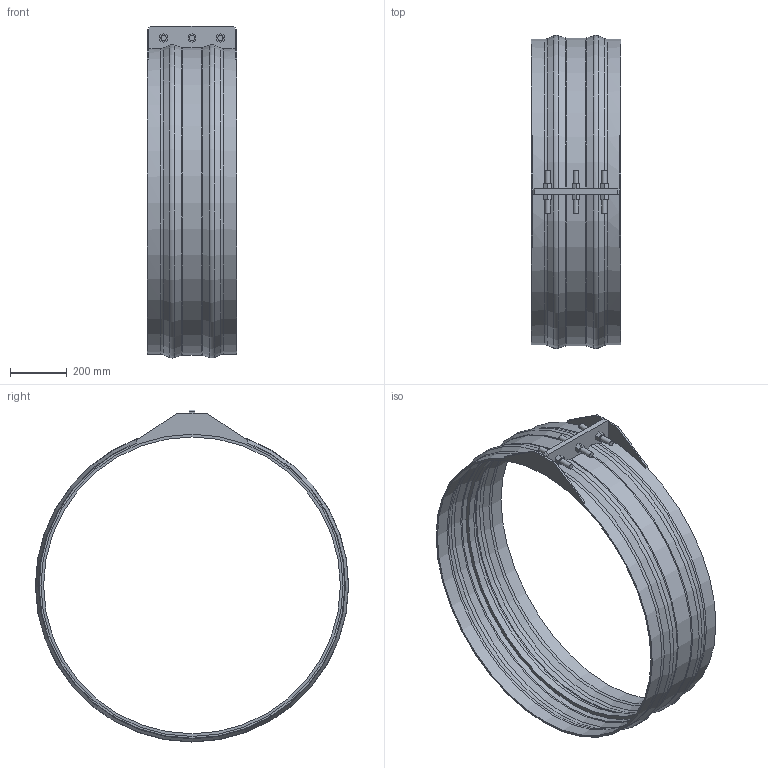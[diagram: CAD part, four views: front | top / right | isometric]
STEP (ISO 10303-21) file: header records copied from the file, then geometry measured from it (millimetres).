
FILE_DESCRIPTION(/* description */ ('VIC SS RESTRAINED COUPLING STYLE 233S (FLEX) (BRD)','CAx-IF Rec.Pracs.---Representation and Presentation of Product Manufacturing Information (PMI)---4.0---2014-10-13'),/* implementation_level */ '2;1');
FILE_NAME(/* name */ 'C:\Users\kkamble\AppData\Roaming\Autodesk\ApplicationPlugins\Back Up\Victaulic_VBSP_Coupling Flexible Restrained_Style 233S (BRD)\Victaulic_VBSP_Coupling Flexible Restrained_Style 233S (BRD)_100psi_42 (1050).stp',/* time_stamp */ '2020-09-22T18:29:41+06:00',/* author */ ('Vjadhav'),/* organization */ ('Victaulic'),/* preprocessor_version */ 'ST-DEVELOPER v17.2',/* originating_system */ 'Autodesk Inventor 2019',/* authorisation */ '');
FILE_SCHEMA (('AP242_MANAGED_MODEL_BASED_3D_ENGINEERING_MIM_LF { 1 0 10303 442 1 1 4 }'));
Length unit declared in the file: inch
Products named in the file (1): Style_233S_Type_2_100psi-42.0
Bounding box: 317.5 x 1106.15 x 1172.22 mm (x, y, z)
Volume: 8890762 mm3; surface area: 2480065.7 mm2
Topology: 1 solids, 1 shells, 115 faces, 309 edges, 210 vertices
Faces by surface type: plane 73, cylinder 22, torus 12, cone 8
Full cylindrical faces by diameter (mm): 19.05 x6, 1047.75 x1, 1066.8 x2, 1073.15 x2
Entity records: 3974 total; most frequent: CARTESIAN_POINT 756, DIRECTION 649, ORIENTED_EDGE 618, EDGE_CURVE 309, AXIS2_PLACEMENT_3D 227, VERTEX_POINT 210, LINE 195, VECTOR 195
